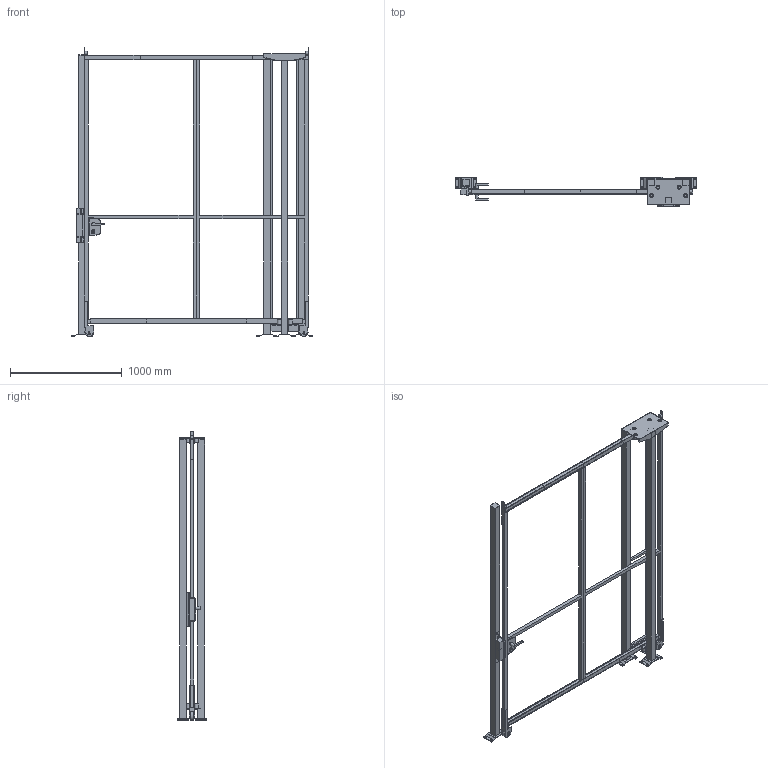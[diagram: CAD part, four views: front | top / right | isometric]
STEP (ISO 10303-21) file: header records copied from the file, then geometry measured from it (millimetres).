
FILE_DESCRIPTION(/* description */ (''),/* implementation_level */ '2;1');
FILE_NAME(/* name */ 'C:\SafeGuarding\ELABORATI\KLADKOUGAMMA_2025-03-21-11-43-49.stp',/* time_stamp */ '2025-03-21T11:43:52+01:00',/* author */ ('admin'),/* organization */ (''),/* preprocessor_version */ 'ST-DEVELOPER v18.1',/* originating_system */ 'AutoCAD Mechanical',/* authorisation */ '');
FILE_SCHEMA (('AUTOMOTIVE_DESIGN { 1 0 10303 214 3 1 1 }'));
Length unit declared in the file: millimetre
Products named in the file (4): Product; VFPA.REPE30.10002400; VFPA.REPE2002502400; P_VFMA.V260SDU.2520
Assembly tree (7 placements, depth 2):
  Product
    VFPA.REPE30.10002400  x2
    P_VFMA.V260SDU.2520  x4
    VFPA.REPE2002502400
Bounding box: 2161.91 x 264 x 2590.02 mm (x, y, z)
Volume: 56723157.4 mm3; surface area: 7157888.9 mm2
Topology: 55 solids, 55 shells, 554 faces, 1657 edges, 1570 vertices
Faces by surface type: plane 476, cylinder 74, bspline 4
Full cylindrical faces by diameter (mm): 9 x4, 11 x16, 13 x4, 18 x1, 25 x2, 25.398 x2, 30 x6, 36 x8, 80 x2
Entity records: 15855 total; most frequent: CARTESIAN_POINT 4124, DIRECTION 2341, ORIENTED_EDGE 2134, EDGE_CURVE 1067, LINE 1027, VECTOR 1027, VERTEX_POINT 718, AXIS2_PLACEMENT_3D 657
